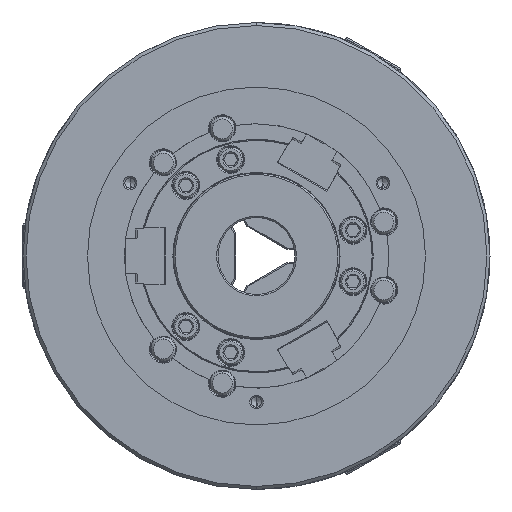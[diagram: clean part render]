
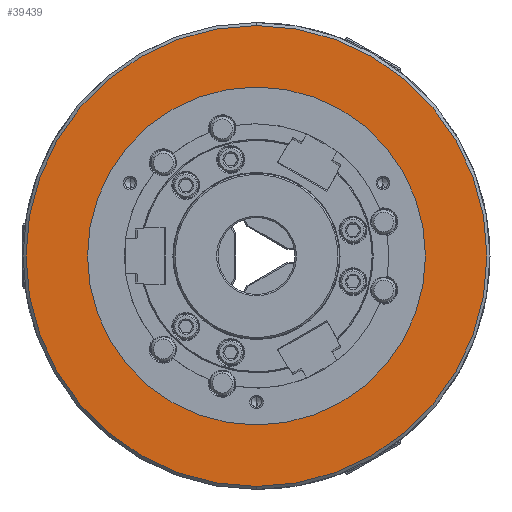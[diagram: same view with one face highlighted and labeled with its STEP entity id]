
A CAD part, left-side view. The second image highlights one B-rep face of the part: STEP entity #39439.
In plain terms, the highlighted planar face has unit normal (-1, 0, 0).
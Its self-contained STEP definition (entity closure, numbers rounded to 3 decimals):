
#7234 = EDGE_CURVE ( 'NONE', #28056, #73525, #53205, .T. ) ;
#7637 = ORIENTED_EDGE ( 'NONE', *, *, #46573, .T. ) ;
#9413 = CARTESIAN_POINT ( 'NONE',  ( -110., 0., 0. ) ) ;
#9700 = AXIS2_PLACEMENT_3D ( 'NONE', #71910, #48081, #53488 ) ;
#10863 = CARTESIAN_POINT ( 'NONE',  ( -110., 0., 0. ) ) ;
#18676 = ORIENTED_EDGE ( 'NONE', *, *, #48699, .T. ) ;
#20330 = VERTEX_POINT ( 'NONE', #67327 ) ;
#20573 = DIRECTION ( 'NONE',  ( -1., 0., 0. ) ) ;
#21351 = AXIS2_PLACEMENT_3D ( 'NONE', #10863, #34299, #57751 ) ;
#21680 = FACE_OUTER_BOUND ( 'NONE', #35979, .T. ) ;
#27428 = FACE_BOUND ( 'NONE', #48402, .T. ) ;
#27791 = CARTESIAN_POINT ( 'NONE',  ( -110., 0., 0. ) ) ;
#28056 = VERTEX_POINT ( 'NONE', #33839 ) ;
#31788 = CIRCLE ( 'NONE', #9700, 150. ) ;
#33839 = CARTESIAN_POINT ( 'NONE',  ( -110., 0., -110. ) ) ;
#34299 = DIRECTION ( 'NONE',  ( -1., 0., 0. ) ) ;
#34691 = AXIS2_PLACEMENT_3D ( 'NONE', #27791, #75414, #62760 ) ;
#35979 = EDGE_LOOP ( 'NONE', ( #7637, #18676 ) ) ;
#36759 = ORIENTED_EDGE ( 'NONE', *, *, #71353, .F. ) ;
#38422 = CIRCLE ( 'NONE', #34691, 110. ) ;
#38954 = DIRECTION ( 'NONE',  ( 1., 0., 0. ) ) ;
#39439 = ADVANCED_FACE ( 'NONE', ( #27428, #21680 ), #62381, .F. ) ;
#41056 = ORIENTED_EDGE ( 'NONE', *, *, #7234, .F. ) ;
#43541 = CARTESIAN_POINT ( 'NONE',  ( -110., 0., 110. ) ) ;
#46573 = EDGE_CURVE ( 'NONE', #66889, #20330, #73955, .T. ) ;
#48081 = DIRECTION ( 'NONE',  ( -1., 0., 0. ) ) ;
#48402 = EDGE_LOOP ( 'NONE', ( #36759, #41056 ) ) ;
#48699 = EDGE_CURVE ( 'NONE', #20330, #66889, #31788, .T. ) ;
#50982 = AXIS2_PLACEMENT_3D ( 'NONE', #62008, #38954, #74298 ) ;
#53205 = CIRCLE ( 'NONE', #21351, 110. ) ;
#53488 = DIRECTION ( 'NONE',  ( 0., 0., 1. ) ) ;
#57751 = DIRECTION ( 'NONE',  ( 0., 0., 1. ) ) ;
#61321 = CARTESIAN_POINT ( 'NONE',  ( -110., 0., -150. ) ) ;
#61680 = DIRECTION ( 'NONE',  ( 0., 0., 1. ) ) ;
#62008 = CARTESIAN_POINT ( 'NONE',  ( -110., 150., 0. ) ) ;
#62381 = PLANE ( 'NONE',  #50982 ) ;
#62760 = DIRECTION ( 'NONE',  ( 0., 0., 1. ) ) ;
#66889 = VERTEX_POINT ( 'NONE', #61321 ) ;
#67327 = CARTESIAN_POINT ( 'NONE',  ( -110., 0., 150. ) ) ;
#71353 = EDGE_CURVE ( 'NONE', #73525, #28056, #38422, .T. ) ;
#71910 = CARTESIAN_POINT ( 'NONE',  ( -110., 0., 0. ) ) ;
#73525 = VERTEX_POINT ( 'NONE', #43541 ) ;
#73955 = CIRCLE ( 'NONE', #75157, 150. ) ;
#74298 = DIRECTION ( 'NONE',  ( 0., 0., -1. ) ) ;
#75157 = AXIS2_PLACEMENT_3D ( 'NONE', #9413, #20573, #61680 ) ;
#75414 = DIRECTION ( 'NONE',  ( -1., 0., 0. ) ) ;
